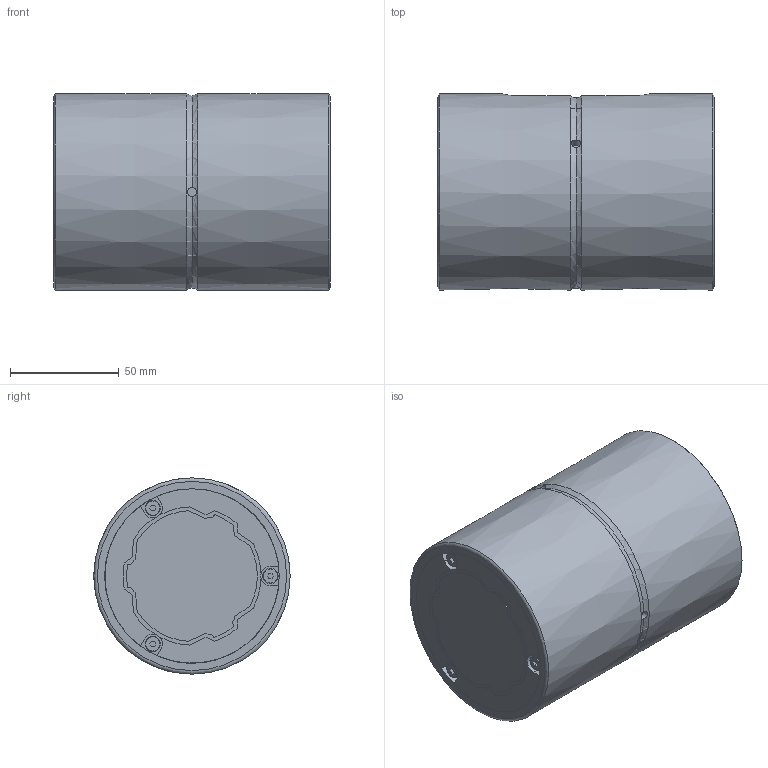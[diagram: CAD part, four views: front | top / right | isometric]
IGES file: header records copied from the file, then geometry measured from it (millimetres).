
Start section: Data from Parasolid IGES Translator 26.0.171, Copyright(c) 2006 Siemens PLM Software. All Rights Reserved.
Global section: file name: SLS601127(00).igs; native system: By Siemens PLM Incorporated; preprocessor: XPlus GENERIC/IGES 26.0.171; author: Noname; organization: Noname; date: 20240523.114706; units: millimetre
Bounding box: 127 x 90 x 90 mm (x, y, z)
Surface area: 100273.6 mm2 (no closed solid volume)
Topology: 0 solids, 0 shells, 253 faces, 1382 edges, 1349 vertices
Faces by surface type: extrusion 132, revolution 121
